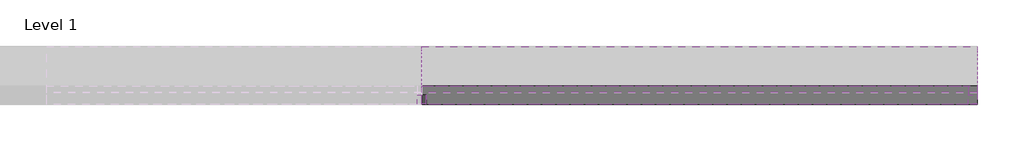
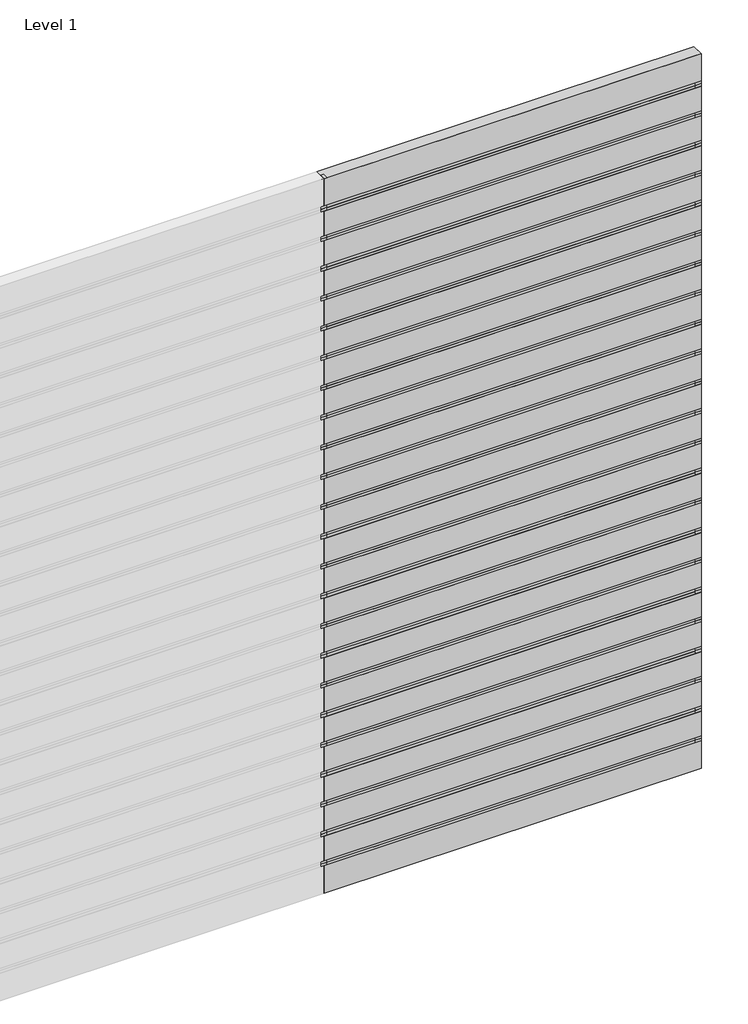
# One storey, part 2 of 2: 59 members, 48 plates.
"""IFC4 building model written with IfcOpenShell, lengths in millimetres."""

from ifc_helpers import new_model, si_unit, origin, place, context, project, spatial, transform, mapped, element, save
from components import rectangular_mullion_1c901da9, rectangular_mullion_552ac5bc, rectangular_mullion_b779000f, empty_system_panel_empty_899e99c9, empty_system_panel_empty_cb8dddf3, empty_system_panel_empty_839ed214

model = new_model("IFC4")

# Units and contexts
model_context = context("Model", 3, world=origin())
ifc_project = project(units=[si_unit("LENGTHUNIT", "METRE", prefix="MILLI")], contexts=[model_context])

# Site, building, storey
site = spatial("IfcSite", under=ifc_project)
building = spatial("IfcBuilding", under=site)
storey = spatial("IfcBuildingStorey", under=building, Name="Level 1", Elevation=0.0)

# Members
placement = place(None, origin())
rectangular_mullion_shape = rectangular_mullion_1c901da9(model_context)
element("IfcMember", 1, ObjectType="Rectangular Mullion : RSen_21_CWM_blade - 250 ellips - 0°_gen_duco projects", at=placement, inside=storey, context=model_context, shape_type="MappedRepresentation", body=[
    mapped(rectangular_mullion_shape, transform((3000.0, 3000.0, 3250.0), x_axis=(0.0, 0.0, 1.0), y_axis=(0.0, 1.0, 0.0), z_axis=(-1.0, 0.0, 0.0))),
])
element("IfcMember", 2, ObjectType="Rectangular Mullion : RSen_21_CWM_blade - 250 ellips - 0°_gen_duco projects", at=placement, inside=storey, context=model_context, shape_type="MappedRepresentation", body=[
    mapped(rectangular_mullion_shape, transform((3000.0, 3000.0, 3500.0), x_axis=(0.0, 0.0, 1.0), y_axis=(0.0, 1.0, 0.0), z_axis=(-1.0, 0.0, 0.0))),
])
element("IfcMember", 3, ObjectType="Rectangular Mullion : RSen_21_CWM_blade - 250 ellips - 0°_gen_duco projects", at=placement, inside=storey, context=model_context, shape_type="MappedRepresentation", body=[
    mapped(rectangular_mullion_shape, transform((3000.0, 3000.0, 3750.0), x_axis=(0.0, 0.0, 1.0), y_axis=(0.0, 1.0, 0.0), z_axis=(-1.0, 0.0, 0.0))),
])
element("IfcMember", 4, ObjectType="Rectangular Mullion : RSen_21_CWM_blade - 250 ellips - 0°_gen_duco projects", at=placement, inside=storey, context=model_context, shape_type="MappedRepresentation", body=[
    mapped(rectangular_mullion_shape, transform((3000.0, 3000.0, 4000.0), x_axis=(0.0, 0.0, 1.0), y_axis=(0.0, 1.0, 0.0), z_axis=(-1.0, 0.0, 0.0))),
])
element("IfcMember", 5, ObjectType="Rectangular Mullion : RSen_21_CWM_blade - 250 ellips - 0°_gen_duco projects", at=placement, inside=storey, context=model_context, shape_type="MappedRepresentation", body=[
    mapped(rectangular_mullion_shape, transform((3000.0, 3000.0, 4250.0), x_axis=(0.0, 0.0, 1.0), y_axis=(0.0, 1.0, 0.0), z_axis=(-1.0, 0.0, 0.0))),
])
element("IfcMember", 6, ObjectType="Rectangular Mullion : RSen_21_CWM_blade - 250 ellips - 0°_gen_duco projects", at=placement, inside=storey, context=model_context, shape_type="MappedRepresentation", body=[
    mapped(rectangular_mullion_shape, transform((3000.0, 3000.0, 4500.0), x_axis=(0.0, 0.0, 1.0), y_axis=(0.0, 1.0, 0.0), z_axis=(-1.0, 0.0, 0.0))),
])
element("IfcMember", 7, ObjectType="Rectangular Mullion : RSen_21_CWM_blade - 250 ellips - 0°_gen_duco projects", at=placement, inside=storey, context=model_context, shape_type="MappedRepresentation", body=[
    mapped(rectangular_mullion_shape, transform((3000.0, 3000.0, 4750.0), x_axis=(0.0, 0.0, 1.0), y_axis=(0.0, 1.0, 0.0), z_axis=(-1.0, 0.0, 0.0))),
])
element("IfcMember", 8, ObjectType="Rectangular Mullion : RSen_21_CWM_blade - 250 ellips - 0°_gen_duco projects", at=placement, inside=storey, context=model_context, shape_type="MappedRepresentation", body=[
    mapped(rectangular_mullion_shape, transform((3000.0, 3000.0, 5000.0), x_axis=(0.0, 0.0, 1.0), y_axis=(0.0, 1.0, 0.0), z_axis=(-1.0, 0.0, 0.0))),
])
element("IfcMember", 9, ObjectType="Rectangular Mullion : RSen_21_CWM_blade - 250 ellips - 0°_gen_duco projects", at=placement, inside=storey, context=model_context, shape_type="MappedRepresentation", body=[
    mapped(rectangular_mullion_shape, transform((3000.0, 3000.0, 5250.0), x_axis=(0.0, 0.0, 1.0), y_axis=(0.0, 1.0, 0.0), z_axis=(-1.0, 0.0, 0.0))),
])
element("IfcMember", 10, ObjectType="Rectangular Mullion : RSen_21_CWM_blade - 250 ellips - 0°_gen_duco projects", at=placement, inside=storey, context=model_context, shape_type="MappedRepresentation", body=[
    mapped(rectangular_mullion_shape, transform((3000.0, 3000.0, 5500.0), x_axis=(0.0, 0.0, 1.0), y_axis=(0.0, 1.0, 0.0), z_axis=(-1.0, 0.0, 0.0))),
])
element("IfcMember", 11, ObjectType="Rectangular Mullion : RSen_21_CWM_blade - 250 ellips - 0°_gen_duco projects", at=placement, inside=storey, context=model_context, shape_type="MappedRepresentation", body=[
    mapped(rectangular_mullion_shape, transform((3000.0, 3000.0, 5750.0), x_axis=(0.0, 0.0, 1.0), y_axis=(0.0, 1.0, 0.0), z_axis=(-1.0, 0.0, 0.0))),
])
rectangular_mullion_2_shape = rectangular_mullion_552ac5bc(model_context)
element("IfcMember", 12, ObjectType="Rectangular Mullion : RSen_21_CWM_support profile 50x50_gen_duco projects", at=placement, inside=storey, context=model_context, shape_type="MappedRepresentation", body=[
    mapped(rectangular_mullion_2_shape, transform((3000.0, 3000.0, 0.0), x_axis=(-1.0, 0.0, 0.0), y_axis=(0.0, 1.0, 0.0), z_axis=(0.0, 0.0, -1.0))),
])
element("IfcMember", 13, ObjectType="Rectangular Mullion : RSen_21_CWM_support profile 50x50_gen_duco projects", at=placement, inside=storey, context=model_context, shape_type="MappedRepresentation", body=[
    mapped(rectangular_mullion_2_shape, transform((3000.0, 3000.0, 250.0), x_axis=(-1.0, 0.0, 0.0), y_axis=(0.0, 1.0, 0.0), z_axis=(0.0, 0.0, -1.0))),
])
element("IfcMember", 14, ObjectType="Rectangular Mullion : RSen_21_CWM_support profile 50x50_gen_duco projects", at=placement, inside=storey, context=model_context, shape_type="MappedRepresentation", body=[
    mapped(rectangular_mullion_2_shape, transform((3000.0, 3000.0, 500.0), x_axis=(-1.0, 0.0, 0.0), y_axis=(0.0, 1.0, 0.0), z_axis=(0.0, 0.0, -1.0))),
])
element("IfcMember", 15, ObjectType="Rectangular Mullion : RSen_21_CWM_support profile 50x50_gen_duco projects", at=placement, inside=storey, context=model_context, shape_type="MappedRepresentation", body=[
    mapped(rectangular_mullion_2_shape, transform((3000.0, 3000.0, 750.0), x_axis=(-1.0, 0.0, 0.0), y_axis=(0.0, 1.0, 0.0), z_axis=(0.0, 0.0, -1.0))),
])
element("IfcMember", 16, ObjectType="Rectangular Mullion : RSen_21_CWM_support profile 50x50_gen_duco projects", at=placement, inside=storey, context=model_context, shape_type="MappedRepresentation", body=[
    mapped(rectangular_mullion_2_shape, transform((3000.0, 3000.0, 1000.0), x_axis=(-1.0, 0.0, 0.0), y_axis=(0.0, 1.0, 0.0), z_axis=(0.0, 0.0, -1.0))),
])
element("IfcMember", 17, ObjectType="Rectangular Mullion : RSen_21_CWM_support profile 50x50_gen_duco projects", at=placement, inside=storey, context=model_context, shape_type="MappedRepresentation", body=[
    mapped(rectangular_mullion_2_shape, transform((3000.0, 3000.0, 1250.0), x_axis=(-1.0, 0.0, 0.0), y_axis=(0.0, 1.0, 0.0), z_axis=(0.0, 0.0, -1.0))),
])
element("IfcMember", 18, ObjectType="Rectangular Mullion : RSen_21_CWM_support profile 50x50_gen_duco projects", at=placement, inside=storey, context=model_context, shape_type="MappedRepresentation", body=[
    mapped(rectangular_mullion_2_shape, transform((3000.0, 3000.0, 1500.0), x_axis=(-1.0, 0.0, 0.0), y_axis=(0.0, 1.0, 0.0), z_axis=(0.0, 0.0, -1.0))),
])
element("IfcMember", 19, ObjectType="Rectangular Mullion : RSen_21_CWM_support profile 50x50_gen_duco projects", at=placement, inside=storey, context=model_context, shape_type="MappedRepresentation", body=[
    mapped(rectangular_mullion_2_shape, transform((3000.0, 3000.0, 1750.0), x_axis=(-1.0, 0.0, 0.0), y_axis=(0.0, 1.0, 0.0), z_axis=(0.0, 0.0, -1.0))),
])
element("IfcMember", 20, ObjectType="Rectangular Mullion : RSen_21_CWM_support profile 50x50_gen_duco projects", at=placement, inside=storey, context=model_context, shape_type="MappedRepresentation", body=[
    mapped(rectangular_mullion_2_shape, transform((3000.0, 3000.0, 2000.0), x_axis=(-1.0, 0.0, 0.0), y_axis=(0.0, 1.0, 0.0), z_axis=(0.0, 0.0, -1.0))),
])
element("IfcMember", 21, ObjectType="Rectangular Mullion : RSen_21_CWM_support profile 50x50_gen_duco projects", at=placement, inside=storey, context=model_context, shape_type="MappedRepresentation", body=[
    mapped(rectangular_mullion_2_shape, transform((3000.0, 3000.0, 2250.0), x_axis=(-1.0, 0.0, 0.0), y_axis=(0.0, 1.0, 0.0), z_axis=(0.0, 0.0, -1.0))),
])
element("IfcMember", 22, ObjectType="Rectangular Mullion : RSen_21_CWM_support profile 50x50_gen_duco projects", at=placement, inside=storey, context=model_context, shape_type="MappedRepresentation", body=[
    mapped(rectangular_mullion_2_shape, transform((3000.0, 3000.0, 2500.0), x_axis=(-1.0, 0.0, 0.0), y_axis=(0.0, 1.0, 0.0), z_axis=(0.0, 0.0, -1.0))),
])
element("IfcMember", 23, ObjectType="Rectangular Mullion : RSen_21_CWM_support profile 50x50_gen_duco projects", at=placement, inside=storey, context=model_context, shape_type="MappedRepresentation", body=[
    mapped(rectangular_mullion_2_shape, transform((3000.0, 3000.0, 2750.0), x_axis=(-1.0, 0.0, 0.0), y_axis=(0.0, 1.0, 0.0), z_axis=(0.0, 0.0, -1.0))),
])
element("IfcMember", 24, ObjectType="Rectangular Mullion : RSen_21_CWM_support profile 50x50_gen_duco projects", at=placement, inside=storey, context=model_context, shape_type="MappedRepresentation", body=[
    mapped(rectangular_mullion_2_shape, transform((3000.0, 3000.0, 3000.0), x_axis=(-1.0, 0.0, 0.0), y_axis=(0.0, 1.0, 0.0), z_axis=(0.0, 0.0, -1.0))),
])
element("IfcMember", 25, ObjectType="Rectangular Mullion : RSen_21_CWM_support profile 50x50_gen_duco projects", at=placement, inside=storey, context=model_context, shape_type="MappedRepresentation", body=[
    mapped(rectangular_mullion_2_shape, transform((3000.0, 3000.0, 3250.0), x_axis=(-1.0, 0.0, 0.0), y_axis=(0.0, 1.0, 0.0), z_axis=(0.0, 0.0, -1.0))),
])
element("IfcMember", 26, ObjectType="Rectangular Mullion : RSen_21_CWM_support profile 50x50_gen_duco projects", at=placement, inside=storey, context=model_context, shape_type="MappedRepresentation", body=[
    mapped(rectangular_mullion_2_shape, transform((3000.0, 3000.0, 3500.0), x_axis=(-1.0, 0.0, 0.0), y_axis=(0.0, 1.0, 0.0), z_axis=(0.0, 0.0, -1.0))),
])
element("IfcMember", 27, ObjectType="Rectangular Mullion : RSen_21_CWM_support profile 50x50_gen_duco projects", at=placement, inside=storey, context=model_context, shape_type="MappedRepresentation", body=[
    mapped(rectangular_mullion_2_shape, transform((3000.0, 3000.0, 3750.0), x_axis=(-1.0, 0.0, 0.0), y_axis=(0.0, 1.0, 0.0), z_axis=(0.0, 0.0, -1.0))),
])
element("IfcMember", 28, ObjectType="Rectangular Mullion : RSen_21_CWM_support profile 50x50_gen_duco projects", at=placement, inside=storey, context=model_context, shape_type="MappedRepresentation", body=[
    mapped(rectangular_mullion_2_shape, transform((3000.0, 3000.0, 4000.0), x_axis=(-1.0, 0.0, 0.0), y_axis=(0.0, 1.0, 0.0), z_axis=(0.0, 0.0, -1.0))),
])
element("IfcMember", 29, ObjectType="Rectangular Mullion : RSen_21_CWM_support profile 50x50_gen_duco projects", at=placement, inside=storey, context=model_context, shape_type="MappedRepresentation", body=[
    mapped(rectangular_mullion_2_shape, transform((3000.0, 3000.0, 4250.0), x_axis=(-1.0, 0.0, 0.0), y_axis=(0.0, 1.0, 0.0), z_axis=(0.0, 0.0, -1.0))),
])
element("IfcMember", 30, ObjectType="Rectangular Mullion : RSen_21_CWM_support profile 50x50_gen_duco projects", at=placement, inside=storey, context=model_context, shape_type="MappedRepresentation", body=[
    mapped(rectangular_mullion_2_shape, transform((3000.0, 3000.0, 4500.0), x_axis=(-1.0, 0.0, 0.0), y_axis=(0.0, 1.0, 0.0), z_axis=(0.0, 0.0, -1.0))),
])
element("IfcMember", 31, ObjectType="Rectangular Mullion : RSen_21_CWM_support profile 50x50_gen_duco projects", at=placement, inside=storey, context=model_context, shape_type="MappedRepresentation", body=[
    mapped(rectangular_mullion_2_shape, transform((3000.0, 3000.0, 4750.0), x_axis=(-1.0, 0.0, 0.0), y_axis=(0.0, 1.0, 0.0), z_axis=(0.0, 0.0, -1.0))),
])
element("IfcMember", 32, ObjectType="Rectangular Mullion : RSen_21_CWM_support profile 50x50_gen_duco projects", at=placement, inside=storey, context=model_context, shape_type="MappedRepresentation", body=[
    mapped(rectangular_mullion_2_shape, transform((3000.0, 3000.0, 5000.0), x_axis=(-1.0, 0.0, 0.0), y_axis=(0.0, 1.0, 0.0), z_axis=(0.0, 0.0, -1.0))),
])
element("IfcMember", 33, ObjectType="Rectangular Mullion : RSen_21_CWM_support profile 50x50_gen_duco projects", at=placement, inside=storey, context=model_context, shape_type="MappedRepresentation", body=[
    mapped(rectangular_mullion_2_shape, transform((3000.0, 3000.0, 5250.0), x_axis=(-1.0, 0.0, 0.0), y_axis=(0.0, 1.0, 0.0), z_axis=(0.0, 0.0, -1.0))),
])
element("IfcMember", 34, ObjectType="Rectangular Mullion : RSen_21_CWM_support profile 50x50_gen_duco projects", at=placement, inside=storey, context=model_context, shape_type="MappedRepresentation", body=[
    mapped(rectangular_mullion_2_shape, transform((3000.0, 3000.0, 5500.0), x_axis=(-1.0, 0.0, 0.0), y_axis=(0.0, 1.0, 0.0), z_axis=(0.0, 0.0, -1.0))),
])
element("IfcMember", 35, ObjectType="Rectangular Mullion : RSen_21_CWM_support profile 50x50_gen_duco projects", at=placement, inside=storey, context=model_context, shape_type="MappedRepresentation", body=[
    mapped(rectangular_mullion_2_shape, transform((3000.0, 3000.0, 5750.0), x_axis=(-1.0, 0.0, 0.0), y_axis=(0.0, 1.0, 0.0), z_axis=(0.0, 0.0, -1.0))),
])
rectangular_mullion_3_shape = rectangular_mullion_b779000f(model_context)
element("IfcMember", 36, ObjectType="Rectangular Mullion : RSen_21_CWM_support profile 50x50 - right_gen_duco projects", at=placement, inside=storey, context=model_context, shape_type="MappedRepresentation", body=[
    mapped(rectangular_mullion_3_shape, transform((6000.0, 3000.0, 6000.0), x_axis=(1.0, 0.0, 0.0), y_axis=(0.0, 1.0, 0.0), z_axis=(0.0, 0.0, 1.0))),
])
element("IfcMember", 37, ObjectType="Rectangular Mullion : RSen_21_CWM_support profile 50x50 - right_gen_duco projects", at=placement, inside=storey, context=model_context, shape_type="MappedRepresentation", body=[
    mapped(rectangular_mullion_3_shape, transform((6000.0, 3000.0, 250.0), x_axis=(1.0, 0.0, 0.0), y_axis=(0.0, 1.0, 0.0), z_axis=(0.0, 0.0, 1.0))),
])
element("IfcMember", 38, ObjectType="Rectangular Mullion : RSen_21_CWM_support profile 50x50 - right_gen_duco projects", at=placement, inside=storey, context=model_context, shape_type="MappedRepresentation", body=[
    mapped(rectangular_mullion_3_shape, transform((6000.0, 3000.0, 500.0), x_axis=(1.0, 0.0, 0.0), y_axis=(0.0, 1.0, 0.0), z_axis=(0.0, 0.0, 1.0))),
])
element("IfcMember", 39, ObjectType="Rectangular Mullion : RSen_21_CWM_support profile 50x50 - right_gen_duco projects", at=placement, inside=storey, context=model_context, shape_type="MappedRepresentation", body=[
    mapped(rectangular_mullion_3_shape, transform((6000.0, 3000.0, 750.0), x_axis=(1.0, 0.0, 0.0), y_axis=(0.0, 1.0, 0.0), z_axis=(0.0, 0.0, 1.0))),
])
element("IfcMember", 40, ObjectType="Rectangular Mullion : RSen_21_CWM_support profile 50x50 - right_gen_duco projects", at=placement, inside=storey, context=model_context, shape_type="MappedRepresentation", body=[
    mapped(rectangular_mullion_3_shape, transform((6000.0, 3000.0, 1000.0), x_axis=(1.0, 0.0, 0.0), y_axis=(0.0, 1.0, 0.0), z_axis=(0.0, 0.0, 1.0))),
])
element("IfcMember", 41, ObjectType="Rectangular Mullion : RSen_21_CWM_support profile 50x50 - right_gen_duco projects", at=placement, inside=storey, context=model_context, shape_type="MappedRepresentation", body=[
    mapped(rectangular_mullion_3_shape, transform((6000.0, 3000.0, 1250.0), x_axis=(1.0, 0.0, 0.0), y_axis=(0.0, 1.0, 0.0), z_axis=(0.0, 0.0, 1.0))),
])
element("IfcMember", 42, ObjectType="Rectangular Mullion : RSen_21_CWM_support profile 50x50 - right_gen_duco projects", at=placement, inside=storey, context=model_context, shape_type="MappedRepresentation", body=[
    mapped(rectangular_mullion_3_shape, transform((6000.0, 3000.0, 1500.0), x_axis=(1.0, 0.0, 0.0), y_axis=(0.0, 1.0, 0.0), z_axis=(0.0, 0.0, 1.0))),
])
element("IfcMember", 43, ObjectType="Rectangular Mullion : RSen_21_CWM_support profile 50x50 - right_gen_duco projects", at=placement, inside=storey, context=model_context, shape_type="MappedRepresentation", body=[
    mapped(rectangular_mullion_3_shape, transform((6000.0, 3000.0, 1750.0), x_axis=(1.0, 0.0, 0.0), y_axis=(0.0, 1.0, 0.0), z_axis=(0.0, 0.0, 1.0))),
])
element("IfcMember", 44, ObjectType="Rectangular Mullion : RSen_21_CWM_support profile 50x50 - right_gen_duco projects", at=placement, inside=storey, context=model_context, shape_type="MappedRepresentation", body=[
    mapped(rectangular_mullion_3_shape, transform((6000.0, 3000.0, 2000.0), x_axis=(1.0, 0.0, 0.0), y_axis=(0.0, 1.0, 0.0), z_axis=(0.0, 0.0, 1.0))),
])
element("IfcMember", 45, ObjectType="Rectangular Mullion : RSen_21_CWM_support profile 50x50 - right_gen_duco projects", at=placement, inside=storey, context=model_context, shape_type="MappedRepresentation", body=[
    mapped(rectangular_mullion_3_shape, transform((6000.0, 3000.0, 2250.0), x_axis=(1.0, 0.0, 0.0), y_axis=(0.0, 1.0, 0.0), z_axis=(0.0, 0.0, 1.0))),
])
element("IfcMember", 46, ObjectType="Rectangular Mullion : RSen_21_CWM_support profile 50x50 - right_gen_duco projects", at=placement, inside=storey, context=model_context, shape_type="MappedRepresentation", body=[
    mapped(rectangular_mullion_3_shape, transform((6000.0, 3000.0, 2500.0), x_axis=(1.0, 0.0, 0.0), y_axis=(0.0, 1.0, 0.0), z_axis=(0.0, 0.0, 1.0))),
])
element("IfcMember", 47, ObjectType="Rectangular Mullion : RSen_21_CWM_support profile 50x50 - right_gen_duco projects", at=placement, inside=storey, context=model_context, shape_type="MappedRepresentation", body=[
    mapped(rectangular_mullion_3_shape, transform((6000.0, 3000.0, 2750.0), x_axis=(1.0, 0.0, 0.0), y_axis=(0.0, 1.0, 0.0), z_axis=(0.0, 0.0, 1.0))),
])
element("IfcMember", 48, ObjectType="Rectangular Mullion : RSen_21_CWM_support profile 50x50 - right_gen_duco projects", at=placement, inside=storey, context=model_context, shape_type="MappedRepresentation", body=[
    mapped(rectangular_mullion_3_shape, transform((6000.0, 3000.0, 3000.0), x_axis=(1.0, 0.0, 0.0), y_axis=(0.0, 1.0, 0.0), z_axis=(0.0, 0.0, 1.0))),
])
element("IfcMember", 49, ObjectType="Rectangular Mullion : RSen_21_CWM_support profile 50x50 - right_gen_duco projects", at=placement, inside=storey, context=model_context, shape_type="MappedRepresentation", body=[
    mapped(rectangular_mullion_3_shape, transform((6000.0, 3000.0, 3250.0), x_axis=(1.0, 0.0, 0.0), y_axis=(0.0, 1.0, 0.0), z_axis=(0.0, 0.0, 1.0))),
])
element("IfcMember", 50, ObjectType="Rectangular Mullion : RSen_21_CWM_support profile 50x50 - right_gen_duco projects", at=placement, inside=storey, context=model_context, shape_type="MappedRepresentation", body=[
    mapped(rectangular_mullion_3_shape, transform((6000.0, 3000.0, 3500.0), x_axis=(1.0, 0.0, 0.0), y_axis=(0.0, 1.0, 0.0), z_axis=(0.0, 0.0, 1.0))),
])
element("IfcMember", 51, ObjectType="Rectangular Mullion : RSen_21_CWM_support profile 50x50 - right_gen_duco projects", at=placement, inside=storey, context=model_context, shape_type="MappedRepresentation", body=[
    mapped(rectangular_mullion_3_shape, transform((6000.0, 3000.0, 3750.0), x_axis=(1.0, 0.0, 0.0), y_axis=(0.0, 1.0, 0.0), z_axis=(0.0, 0.0, 1.0))),
])
element("IfcMember", 52, ObjectType="Rectangular Mullion : RSen_21_CWM_support profile 50x50 - right_gen_duco projects", at=placement, inside=storey, context=model_context, shape_type="MappedRepresentation", body=[
    mapped(rectangular_mullion_3_shape, transform((6000.0, 3000.0, 4000.0), x_axis=(1.0, 0.0, 0.0), y_axis=(0.0, 1.0, 0.0), z_axis=(0.0, 0.0, 1.0))),
])
element("IfcMember", 53, ObjectType="Rectangular Mullion : RSen_21_CWM_support profile 50x50 - right_gen_duco projects", at=placement, inside=storey, context=model_context, shape_type="MappedRepresentation", body=[
    mapped(rectangular_mullion_3_shape, transform((6000.0, 3000.0, 4250.0), x_axis=(1.0, 0.0, 0.0), y_axis=(0.0, 1.0, 0.0), z_axis=(0.0, 0.0, 1.0))),
])
element("IfcMember", 54, ObjectType="Rectangular Mullion : RSen_21_CWM_support profile 50x50 - right_gen_duco projects", at=placement, inside=storey, context=model_context, shape_type="MappedRepresentation", body=[
    mapped(rectangular_mullion_3_shape, transform((6000.0, 3000.0, 4500.0), x_axis=(1.0, 0.0, 0.0), y_axis=(0.0, 1.0, 0.0), z_axis=(0.0, 0.0, 1.0))),
])
element("IfcMember", 55, ObjectType="Rectangular Mullion : RSen_21_CWM_support profile 50x50 - right_gen_duco projects", at=placement, inside=storey, context=model_context, shape_type="MappedRepresentation", body=[
    mapped(rectangular_mullion_3_shape, transform((6000.0, 3000.0, 4750.0), x_axis=(1.0, 0.0, 0.0), y_axis=(0.0, 1.0, 0.0), z_axis=(0.0, 0.0, 1.0))),
])
element("IfcMember", 56, ObjectType="Rectangular Mullion : RSen_21_CWM_support profile 50x50 - right_gen_duco projects", at=placement, inside=storey, context=model_context, shape_type="MappedRepresentation", body=[
    mapped(rectangular_mullion_3_shape, transform((6000.0, 3000.0, 5000.0), x_axis=(1.0, 0.0, 0.0), y_axis=(0.0, 1.0, 0.0), z_axis=(0.0, 0.0, 1.0))),
])
element("IfcMember", 57, ObjectType="Rectangular Mullion : RSen_21_CWM_support profile 50x50 - right_gen_duco projects", at=placement, inside=storey, context=model_context, shape_type="MappedRepresentation", body=[
    mapped(rectangular_mullion_3_shape, transform((6000.0, 3000.0, 5250.0), x_axis=(1.0, 0.0, 0.0), y_axis=(0.0, 1.0, 0.0), z_axis=(0.0, 0.0, 1.0))),
])
element("IfcMember", 58, ObjectType="Rectangular Mullion : RSen_21_CWM_support profile 50x50 - right_gen_duco projects", at=placement, inside=storey, context=model_context, shape_type="MappedRepresentation", body=[
    mapped(rectangular_mullion_3_shape, transform((6000.0, 3000.0, 5500.0), x_axis=(1.0, 0.0, 0.0), y_axis=(0.0, 1.0, 0.0), z_axis=(0.0, 0.0, 1.0))),
])
element("IfcMember", 59, ObjectType="Rectangular Mullion : RSen_21_CWM_support profile 50x50 - right_gen_duco projects", at=placement, inside=storey, context=model_context, shape_type="MappedRepresentation", body=[
    mapped(rectangular_mullion_3_shape, transform((6000.0, 3000.0, 5750.0), x_axis=(1.0, 0.0, 0.0), y_axis=(0.0, 1.0, 0.0), z_axis=(0.0, 0.0, 1.0))),
])

# Plates
empty_system_panel_empty_shape = empty_system_panel_empty_899e99c9(model_context)
element("IfcPlate", 60, ObjectType="Empty System Panel : Empty", at=placement, inside=storey, context=model_context, shape_type="MappedRepresentation", body=[
    mapped(empty_system_panel_empty_shape, transform((4500.0, 3000.0, 0.0), x_axis=(-1.0, 0.0, 0.0), y_axis=(0.0, -1.0, 0.0), z_axis=(0.0, 0.0, 1.0))),
])
element("IfcPlate", 61, ObjectType="Empty System Panel : Empty", at=placement, inside=storey, context=model_context, shape_type="MappedRepresentation", body=[
    mapped(empty_system_panel_empty_shape, transform((4500.0, 3000.0, 5771.75), x_axis=(-1.0, 0.0, 0.0), y_axis=(0.0, -1.0, 0.0), z_axis=(0.0, 0.0, 1.0))),
])
empty_system_panel_empty_2_shape = empty_system_panel_empty_cb8dddf3(model_context)
element("IfcPlate", 62, ObjectType="Empty System Panel : Empty", at=placement, inside=storey, context=model_context, shape_type="MappedRepresentation", body=[
    mapped(empty_system_panel_empty_2_shape, transform((4500.0, 3000.0, 271.75), x_axis=(-1.0, 0.0, 0.0), y_axis=(0.0, -1.0, 0.0), z_axis=(0.0, 0.0, 1.0))),
])
element("IfcPlate", 63, ObjectType="Empty System Panel : Empty", at=placement, inside=storey, context=model_context, shape_type="MappedRepresentation", body=[
    mapped(empty_system_panel_empty_2_shape, transform((4500.0, 3000.0, 521.75), x_axis=(-1.0, 0.0, 0.0), y_axis=(0.0, -1.0, 0.0), z_axis=(0.0, 0.0, 1.0))),
])
element("IfcPlate", 64, ObjectType="Empty System Panel : Empty", at=placement, inside=storey, context=model_context, shape_type="MappedRepresentation", body=[
    mapped(empty_system_panel_empty_2_shape, transform((4500.0, 3000.0, 771.75), x_axis=(-1.0, 0.0, 0.0), y_axis=(0.0, -1.0, 0.0), z_axis=(0.0, 0.0, 1.0))),
])
element("IfcPlate", 65, ObjectType="Empty System Panel : Empty", at=placement, inside=storey, context=model_context, shape_type="MappedRepresentation", body=[
    mapped(empty_system_panel_empty_2_shape, transform((4500.0, 3000.0, 1021.75), x_axis=(-1.0, 0.0, 0.0), y_axis=(0.0, -1.0, 0.0), z_axis=(0.0, 0.0, 1.0))),
])
element("IfcPlate", 66, ObjectType="Empty System Panel : Empty", at=placement, inside=storey, context=model_context, shape_type="MappedRepresentation", body=[
    mapped(empty_system_panel_empty_2_shape, transform((4500.0, 3000.0, 1271.75), x_axis=(-1.0, 0.0, 0.0), y_axis=(0.0, -1.0, 0.0), z_axis=(0.0, 0.0, 1.0))),
])
element("IfcPlate", 67, ObjectType="Empty System Panel : Empty", at=placement, inside=storey, context=model_context, shape_type="MappedRepresentation", body=[
    mapped(empty_system_panel_empty_2_shape, transform((4500.0, 3000.0, 1521.75), x_axis=(-1.0, 0.0, 0.0), y_axis=(0.0, -1.0, 0.0), z_axis=(0.0, 0.0, 1.0))),
])
element("IfcPlate", 68, ObjectType="Empty System Panel : Empty", at=placement, inside=storey, context=model_context, shape_type="MappedRepresentation", body=[
    mapped(empty_system_panel_empty_2_shape, transform((4500.0, 3000.0, 1771.75), x_axis=(-1.0, 0.0, 0.0), y_axis=(0.0, -1.0, 0.0), z_axis=(0.0, 0.0, 1.0))),
])
element("IfcPlate", 69, ObjectType="Empty System Panel : Empty", at=placement, inside=storey, context=model_context, shape_type="MappedRepresentation", body=[
    mapped(empty_system_panel_empty_2_shape, transform((4500.0, 3000.0, 2021.75), x_axis=(-1.0, 0.0, 0.0), y_axis=(0.0, -1.0, 0.0), z_axis=(0.0, 0.0, 1.0))),
])
element("IfcPlate", 70, ObjectType="Empty System Panel : Empty", at=placement, inside=storey, context=model_context, shape_type="MappedRepresentation", body=[
    mapped(empty_system_panel_empty_2_shape, transform((4500.0, 3000.0, 2271.75), x_axis=(-1.0, 0.0, 0.0), y_axis=(0.0, -1.0, 0.0), z_axis=(0.0, 0.0, 1.0))),
])
element("IfcPlate", 71, ObjectType="Empty System Panel : Empty", at=placement, inside=storey, context=model_context, shape_type="MappedRepresentation", body=[
    mapped(empty_system_panel_empty_2_shape, transform((4500.0, 3000.0, 2521.75), x_axis=(-1.0, 0.0, 0.0), y_axis=(0.0, -1.0, 0.0), z_axis=(0.0, 0.0, 1.0))),
])
element("IfcPlate", 72, ObjectType="Empty System Panel : Empty", at=placement, inside=storey, context=model_context, shape_type="MappedRepresentation", body=[
    mapped(empty_system_panel_empty_2_shape, transform((4500.0, 3000.0, 2771.75), x_axis=(-1.0, 0.0, 0.0), y_axis=(0.0, -1.0, 0.0), z_axis=(0.0, 0.0, 1.0))),
])
element("IfcPlate", 73, ObjectType="Empty System Panel : Empty", at=placement, inside=storey, context=model_context, shape_type="MappedRepresentation", body=[
    mapped(empty_system_panel_empty_2_shape, transform((4500.0, 3000.0, 3021.75), x_axis=(-1.0, 0.0, 0.0), y_axis=(0.0, -1.0, 0.0), z_axis=(0.0, 0.0, 1.0))),
])
element("IfcPlate", 74, ObjectType="Empty System Panel : Empty", at=placement, inside=storey, context=model_context, shape_type="MappedRepresentation", body=[
    mapped(empty_system_panel_empty_2_shape, transform((4500.0, 3000.0, 3271.75), x_axis=(-1.0, 0.0, 0.0), y_axis=(0.0, -1.0, 0.0), z_axis=(0.0, 0.0, 1.0))),
])
element("IfcPlate", 75, ObjectType="Empty System Panel : Empty", at=placement, inside=storey, context=model_context, shape_type="MappedRepresentation", body=[
    mapped(empty_system_panel_empty_2_shape, transform((4500.0, 3000.0, 3521.75), x_axis=(-1.0, 0.0, 0.0), y_axis=(0.0, -1.0, 0.0), z_axis=(0.0, 0.0, 1.0))),
])
element("IfcPlate", 76, ObjectType="Empty System Panel : Empty", at=placement, inside=storey, context=model_context, shape_type="MappedRepresentation", body=[
    mapped(empty_system_panel_empty_2_shape, transform((4500.0, 3000.0, 3771.75), x_axis=(-1.0, 0.0, 0.0), y_axis=(0.0, -1.0, 0.0), z_axis=(0.0, 0.0, 1.0))),
])
element("IfcPlate", 77, ObjectType="Empty System Panel : Empty", at=placement, inside=storey, context=model_context, shape_type="MappedRepresentation", body=[
    mapped(empty_system_panel_empty_2_shape, transform((4500.0, 3000.0, 4021.75), x_axis=(-1.0, 0.0, 0.0), y_axis=(0.0, -1.0, 0.0), z_axis=(0.0, 0.0, 1.0))),
])
element("IfcPlate", 78, ObjectType="Empty System Panel : Empty", at=placement, inside=storey, context=model_context, shape_type="MappedRepresentation", body=[
    mapped(empty_system_panel_empty_2_shape, transform((4500.0, 3000.0, 4271.75), x_axis=(-1.0, 0.0, 0.0), y_axis=(0.0, -1.0, 0.0), z_axis=(0.0, 0.0, 1.0))),
])
element("IfcPlate", 79, ObjectType="Empty System Panel : Empty", at=placement, inside=storey, context=model_context, shape_type="MappedRepresentation", body=[
    mapped(empty_system_panel_empty_2_shape, transform((4500.0, 3000.0, 4521.75), x_axis=(-1.0, 0.0, 0.0), y_axis=(0.0, -1.0, 0.0), z_axis=(0.0, 0.0, 1.0))),
])
element("IfcPlate", 80, ObjectType="Empty System Panel : Empty", at=placement, inside=storey, context=model_context, shape_type="MappedRepresentation", body=[
    mapped(empty_system_panel_empty_2_shape, transform((4500.0, 3000.0, 4771.75), x_axis=(-1.0, 0.0, 0.0), y_axis=(0.0, -1.0, 0.0), z_axis=(0.0, 0.0, 1.0))),
])
element("IfcPlate", 81, ObjectType="Empty System Panel : Empty", at=placement, inside=storey, context=model_context, shape_type="MappedRepresentation", body=[
    mapped(empty_system_panel_empty_2_shape, transform((4500.0, 3000.0, 5021.75), x_axis=(-1.0, 0.0, 0.0), y_axis=(0.0, -1.0, 0.0), z_axis=(0.0, 0.0, 1.0))),
])
element("IfcPlate", 82, ObjectType="Empty System Panel : Empty", at=placement, inside=storey, context=model_context, shape_type="MappedRepresentation", body=[
    mapped(empty_system_panel_empty_2_shape, transform((4500.0, 3000.0, 5271.75), x_axis=(-1.0, 0.0, 0.0), y_axis=(0.0, -1.0, 0.0), z_axis=(0.0, 0.0, 1.0))),
])
element("IfcPlate", 83, ObjectType="Empty System Panel : Empty", at=placement, inside=storey, context=model_context, shape_type="MappedRepresentation", body=[
    mapped(empty_system_panel_empty_2_shape, transform((4500.0, 3000.0, 5521.75), x_axis=(-1.0, 0.0, 0.0), y_axis=(0.0, -1.0, 0.0), z_axis=(0.0, 0.0, 1.0))),
])
empty_system_panel_empty_3_shape = empty_system_panel_empty_839ed214(model_context)
element("IfcPlate", 84, ObjectType="Empty System Panel : Empty", at=placement, inside=storey, context=model_context, shape_type="MappedRepresentation", body=[
    mapped(empty_system_panel_empty_3_shape, transform((4487.5, 3000.0, 0.0), x_axis=(-1.0, 0.0, 0.0), y_axis=(0.0, -1.0, 0.0), z_axis=(0.0, 0.0, 1.0))),
])
element("IfcPlate", 85, ObjectType="Empty System Panel : Empty", at=placement, inside=storey, context=model_context, shape_type="MappedRepresentation", body=[
    mapped(empty_system_panel_empty_3_shape, transform((4487.5, 3000.0, 250.0), x_axis=(-1.0, 0.0, 0.0), y_axis=(0.0, -1.0, 0.0), z_axis=(0.0, 0.0, 1.0))),
])
element("IfcPlate", 86, ObjectType="Empty System Panel : Empty", at=placement, inside=storey, context=model_context, shape_type="MappedRepresentation", body=[
    mapped(empty_system_panel_empty_3_shape, transform((4487.5, 3000.0, 500.0), x_axis=(-1.0, 0.0, 0.0), y_axis=(0.0, -1.0, 0.0), z_axis=(0.0, 0.0, 1.0))),
])
element("IfcPlate", 87, ObjectType="Empty System Panel : Empty", at=placement, inside=storey, context=model_context, shape_type="MappedRepresentation", body=[
    mapped(empty_system_panel_empty_3_shape, transform((4487.5, 3000.0, 750.0), x_axis=(-1.0, 0.0, 0.0), y_axis=(0.0, -1.0, 0.0), z_axis=(0.0, 0.0, 1.0))),
])
element("IfcPlate", 88, ObjectType="Empty System Panel : Empty", at=placement, inside=storey, context=model_context, shape_type="MappedRepresentation", body=[
    mapped(empty_system_panel_empty_3_shape, transform((4487.5, 3000.0, 1000.0), x_axis=(-1.0, 0.0, 0.0), y_axis=(0.0, -1.0, 0.0), z_axis=(0.0, 0.0, 1.0))),
])
element("IfcPlate", 89, ObjectType="Empty System Panel : Empty", at=placement, inside=storey, context=model_context, shape_type="MappedRepresentation", body=[
    mapped(empty_system_panel_empty_3_shape, transform((4487.5, 3000.0, 1250.0), x_axis=(-1.0, 0.0, 0.0), y_axis=(0.0, -1.0, 0.0), z_axis=(0.0, 0.0, 1.0))),
])
element("IfcPlate", 90, ObjectType="Empty System Panel : Empty", at=placement, inside=storey, context=model_context, shape_type="MappedRepresentation", body=[
    mapped(empty_system_panel_empty_3_shape, transform((4487.5, 3000.0, 1500.0), x_axis=(-1.0, 0.0, 0.0), y_axis=(0.0, -1.0, 0.0), z_axis=(0.0, 0.0, 1.0))),
])
element("IfcPlate", 91, ObjectType="Empty System Panel : Empty", at=placement, inside=storey, context=model_context, shape_type="MappedRepresentation", body=[
    mapped(empty_system_panel_empty_3_shape, transform((4487.5, 3000.0, 1750.0), x_axis=(-1.0, 0.0, 0.0), y_axis=(0.0, -1.0, 0.0), z_axis=(0.0, 0.0, 1.0))),
])
element("IfcPlate", 92, ObjectType="Empty System Panel : Empty", at=placement, inside=storey, context=model_context, shape_type="MappedRepresentation", body=[
    mapped(empty_system_panel_empty_3_shape, transform((4487.5, 3000.0, 2000.0), x_axis=(-1.0, 0.0, 0.0), y_axis=(0.0, -1.0, 0.0), z_axis=(0.0, 0.0, 1.0))),
])
element("IfcPlate", 93, ObjectType="Empty System Panel : Empty", at=placement, inside=storey, context=model_context, shape_type="MappedRepresentation", body=[
    mapped(empty_system_panel_empty_3_shape, transform((4487.5, 3000.0, 2250.0), x_axis=(-1.0, 0.0, 0.0), y_axis=(0.0, -1.0, 0.0), z_axis=(0.0, 0.0, 1.0))),
])
element("IfcPlate", 94, ObjectType="Empty System Panel : Empty", at=placement, inside=storey, context=model_context, shape_type="MappedRepresentation", body=[
    mapped(empty_system_panel_empty_3_shape, transform((4487.5, 3000.0, 2500.0), x_axis=(-1.0, 0.0, 0.0), y_axis=(0.0, -1.0, 0.0), z_axis=(0.0, 0.0, 1.0))),
])
element("IfcPlate", 95, ObjectType="Empty System Panel : Empty", at=placement, inside=storey, context=model_context, shape_type="MappedRepresentation", body=[
    mapped(empty_system_panel_empty_3_shape, transform((4487.5, 3000.0, 2750.0), x_axis=(-1.0, 0.0, 0.0), y_axis=(0.0, -1.0, 0.0), z_axis=(0.0, 0.0, 1.0))),
])
element("IfcPlate", 96, ObjectType="Empty System Panel : Empty", at=placement, inside=storey, context=model_context, shape_type="MappedRepresentation", body=[
    mapped(empty_system_panel_empty_3_shape, transform((4487.5, 3000.0, 3000.0), x_axis=(-1.0, 0.0, 0.0), y_axis=(0.0, -1.0, 0.0), z_axis=(0.0, 0.0, 1.0))),
])
element("IfcPlate", 97, ObjectType="Empty System Panel : Empty", at=placement, inside=storey, context=model_context, shape_type="MappedRepresentation", body=[
    mapped(empty_system_panel_empty_3_shape, transform((4487.5, 3000.0, 3250.0), x_axis=(-1.0, 0.0, 0.0), y_axis=(0.0, -1.0, 0.0), z_axis=(0.0, 0.0, 1.0))),
])
element("IfcPlate", 98, ObjectType="Empty System Panel : Empty", at=placement, inside=storey, context=model_context, shape_type="MappedRepresentation", body=[
    mapped(empty_system_panel_empty_3_shape, transform((4487.5, 3000.0, 3500.0), x_axis=(-1.0, 0.0, 0.0), y_axis=(0.0, -1.0, 0.0), z_axis=(0.0, 0.0, 1.0))),
])
element("IfcPlate", 99, ObjectType="Empty System Panel : Empty", at=placement, inside=storey, context=model_context, shape_type="MappedRepresentation", body=[
    mapped(empty_system_panel_empty_3_shape, transform((4487.5, 3000.0, 3750.0), x_axis=(-1.0, 0.0, 0.0), y_axis=(0.0, -1.0, 0.0), z_axis=(0.0, 0.0, 1.0))),
])
element("IfcPlate", 100, ObjectType="Empty System Panel : Empty", at=placement, inside=storey, context=model_context, shape_type="MappedRepresentation", body=[
    mapped(empty_system_panel_empty_3_shape, transform((4487.5, 3000.0, 4000.0), x_axis=(-1.0, 0.0, 0.0), y_axis=(0.0, -1.0, 0.0), z_axis=(0.0, 0.0, 1.0))),
])
element("IfcPlate", 101, ObjectType="Empty System Panel : Empty", at=placement, inside=storey, context=model_context, shape_type="MappedRepresentation", body=[
    mapped(empty_system_panel_empty_3_shape, transform((4487.5, 3000.0, 4250.0), x_axis=(-1.0, 0.0, 0.0), y_axis=(0.0, -1.0, 0.0), z_axis=(0.0, 0.0, 1.0))),
])
element("IfcPlate", 102, ObjectType="Empty System Panel : Empty", at=placement, inside=storey, context=model_context, shape_type="MappedRepresentation", body=[
    mapped(empty_system_panel_empty_3_shape, transform((4487.5, 3000.0, 4500.0), x_axis=(-1.0, 0.0, 0.0), y_axis=(0.0, -1.0, 0.0), z_axis=(0.0, 0.0, 1.0))),
])
element("IfcPlate", 103, ObjectType="Empty System Panel : Empty", at=placement, inside=storey, context=model_context, shape_type="MappedRepresentation", body=[
    mapped(empty_system_panel_empty_3_shape, transform((4487.5, 3000.0, 4750.0), x_axis=(-1.0, 0.0, 0.0), y_axis=(0.0, -1.0, 0.0), z_axis=(0.0, 0.0, 1.0))),
])
element("IfcPlate", 104, ObjectType="Empty System Panel : Empty", at=placement, inside=storey, context=model_context, shape_type="MappedRepresentation", body=[
    mapped(empty_system_panel_empty_3_shape, transform((4487.5, 3000.0, 5000.0), x_axis=(-1.0, 0.0, 0.0), y_axis=(0.0, -1.0, 0.0), z_axis=(0.0, 0.0, 1.0))),
])
element("IfcPlate", 105, ObjectType="Empty System Panel : Empty", at=placement, inside=storey, context=model_context, shape_type="MappedRepresentation", body=[
    mapped(empty_system_panel_empty_3_shape, transform((4487.5, 3000.0, 5250.0), x_axis=(-1.0, 0.0, 0.0), y_axis=(0.0, -1.0, 0.0), z_axis=(0.0, 0.0, 1.0))),
])
element("IfcPlate", 106, ObjectType="Empty System Panel : Empty", at=placement, inside=storey, context=model_context, shape_type="MappedRepresentation", body=[
    mapped(empty_system_panel_empty_3_shape, transform((4487.5, 3000.0, 5500.0), x_axis=(-1.0, 0.0, 0.0), y_axis=(0.0, -1.0, 0.0), z_axis=(0.0, 0.0, 1.0))),
])
element("IfcPlate", 107, ObjectType="Empty System Panel : Empty", at=placement, inside=storey, context=model_context, shape_type="MappedRepresentation", body=[
    mapped(empty_system_panel_empty_3_shape, transform((4487.5, 3000.0, 5750.0), x_axis=(-1.0, 0.0, 0.0), y_axis=(0.0, -1.0, 0.0), z_axis=(0.0, 0.0, 1.0))),
])

save(model, "model.ifc")
